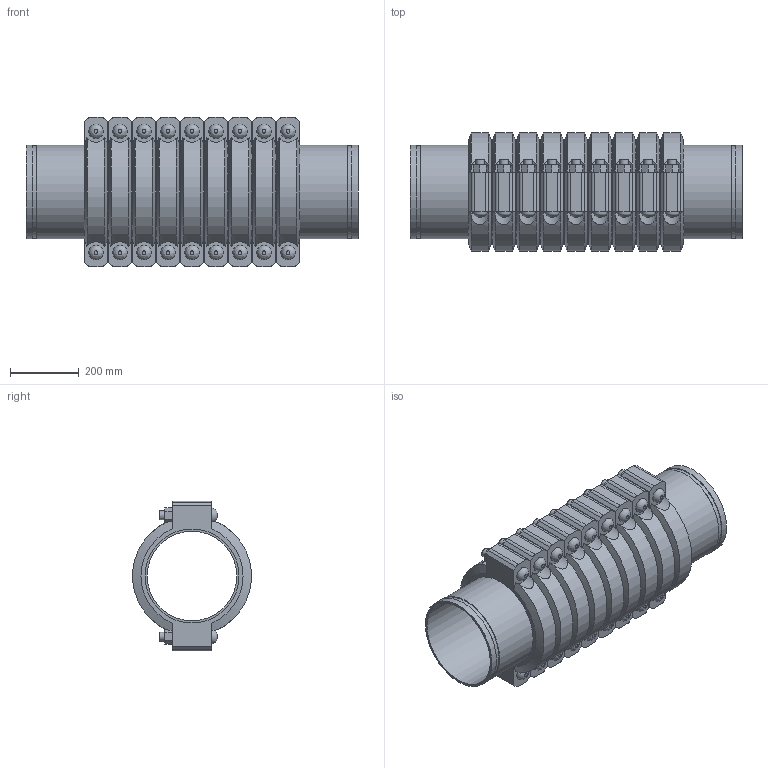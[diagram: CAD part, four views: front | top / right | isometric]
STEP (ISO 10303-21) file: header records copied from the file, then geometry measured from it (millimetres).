
FILE_DESCRIPTION(/* description */ ('VIC SS EXPANSION JOINT 9 COUPLINGS COMPRESSED STYLE 155P (OGS) (POTABLE WATER) ','CAx-IF Rec.Pracs.---Representation and Presentation of Product Manufacturing Information (PMI)---4.0---2014-10-13'),/* implementation_level */ '2;1');
FILE_NAME(/* name */ 'C:\Users\kkamble\AppData\Roaming\Autodesk\ApplicationPlugins\Victaulic.Temp\A693\Victaulic_SS_Expansion Joint_Compressed_9 Couplings_Style 155P (OGS)-Potable Water_9 Coup_Comp_10 (250).stp',/* time_stamp */ '2021-07-16T17:18:53+06:00',/* author */ ('kkamble'),/* organization */ ('Victaulic'),/* preprocessor_version */ 'ST-DEVELOPER v17.2',/* originating_system */ 'Autodesk Inventor 2019',/* authorisation */ '');
FILE_SCHEMA (('AP242_MANAGED_MODEL_BASED_3D_ENGINEERING_MIM_LF { 1 0 10303 442 1 1 4 }'));
Length unit declared in the file: inch
Products named in the file (4): 155P-10.0; Nipple-10.0; Nipple-10.0_1; 077-10.0
Assembly tree (19 placements, depth 2):
  155P-10.0
    Nipple-10.0  x2
    Nipple-10.0_1  x8
    077-10.0  x9
Bounding box: 965.2 x 344.9 x 435.1 mm (x, y, z)
Volume: 30916114.7 mm3; surface area: 4256371.5 mm2
Topology: 19 solids, 37 shells, 633 faces, 1551 edges, 1086 vertices
Faces by surface type: plane 366, cylinder 213, cone 36, bspline 18
Full cylindrical faces by diameter (mm): 25.4 x36, 27.432 x18, 260.35 x10, 268.275 x20, 273.05 x39
Entity records: 3025 total; most frequent: CARTESIAN_POINT 669, DIRECTION 475, ORIENTED_EDGE 398, EDGE_CURVE 199, AXIS2_PLACEMENT_3D 194, VERTEX_POINT 142, EDGE_LOOP 105, CIRCLE 92
